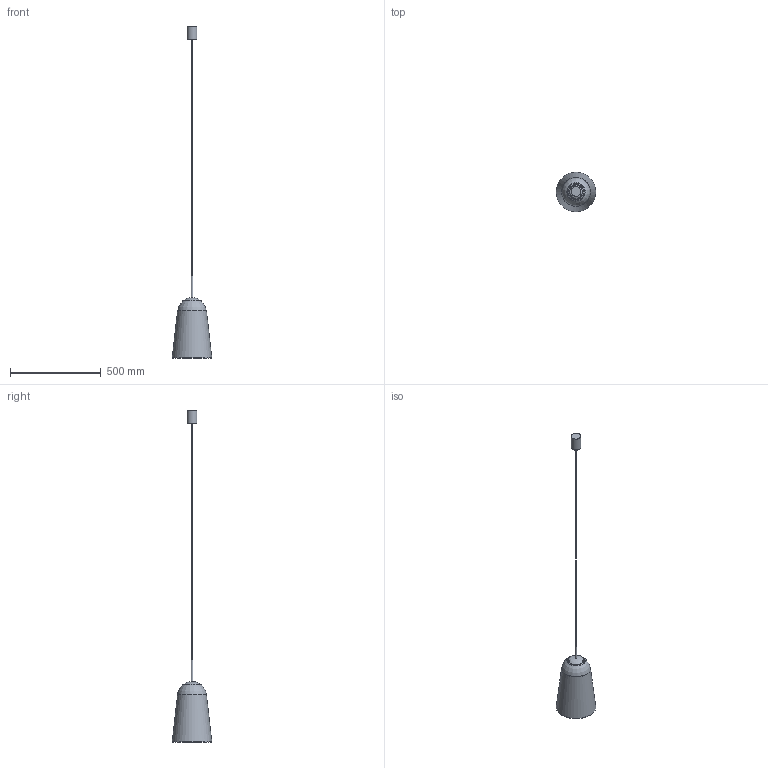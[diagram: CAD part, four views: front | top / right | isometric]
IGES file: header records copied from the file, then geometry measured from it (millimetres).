
Start section: SolidWorks IGES file using analytic representation for surfaces
Global section: file name: X:\PRODUKT\Modele 3D_WWW\_KOLEKCJE WWW\PEAR\8671\PEAR-L-8671.IGS; native system: SolidWorks 2021; preprocessor: SolidWorks 2021; author: gabriela.tworek; date: 221117.130752; units: millimetre
Bounding box: 218.69 x 218.69 x 1833.2 mm (x, y, z)
Surface area: 494923 mm2 (no closed solid volume)
Topology: 0 solids, 0 shells, 168 faces, 587 edges, 511 vertices
Faces by surface type: revolution 84, bspline 84
